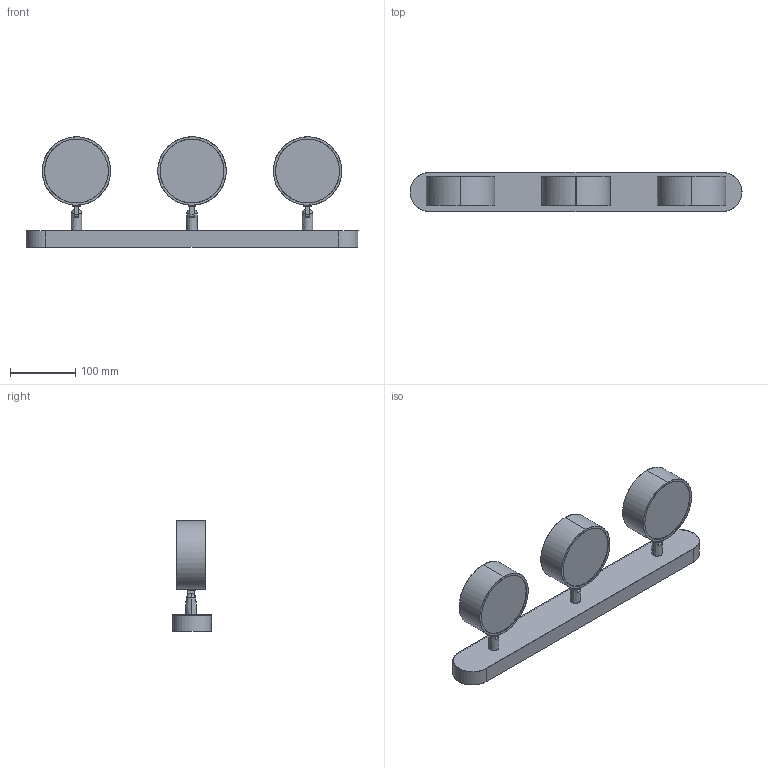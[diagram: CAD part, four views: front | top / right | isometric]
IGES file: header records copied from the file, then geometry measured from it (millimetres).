
Start section: SolidWorks IGES file using analytic representation for surfaces
Global section: file name: F:\燠隴矨\3D\2025-12\Black Travertine Duo Wall Light-3Light.IGS,15; native system: HSolidWorks 2022; preprocessor: SolidWorks 2022; author: MyPC; date: 251211.183027; units: millimetre
Bounding box: 510 x 60 x 169.5 mm (x, y, z)
Surface area: 219910.6 mm2 (no closed solid volume)
Topology: 0 solids, 0 shells, 145 faces, 2272 edges, 2272 vertices
Faces by surface type: bspline 139, revolution 6
